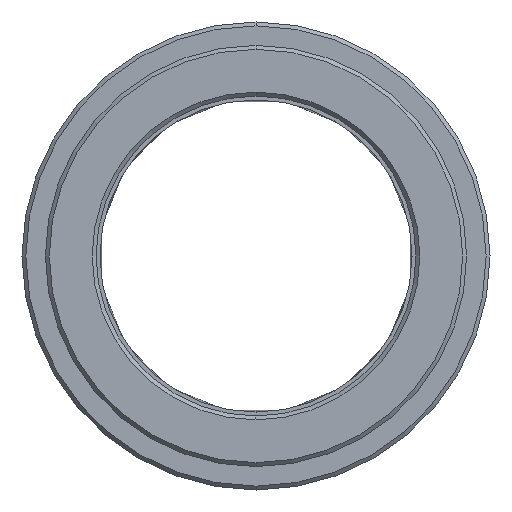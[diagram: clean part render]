
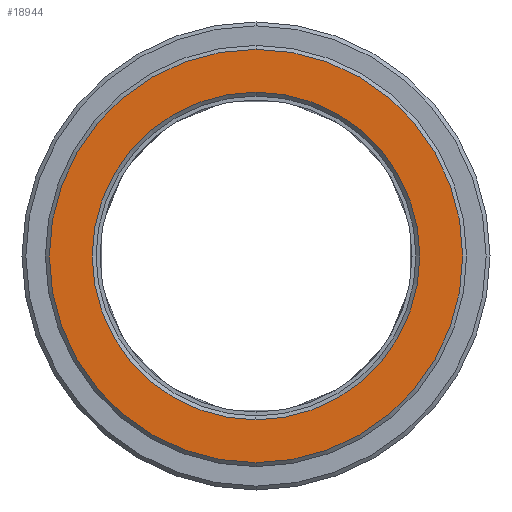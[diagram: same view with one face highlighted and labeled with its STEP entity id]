
A CAD part, left-side view. The second image highlights one B-rep face of the part: STEP entity #18944.
In plain terms, the highlighted planar face has unit normal (-1, 0, 0).
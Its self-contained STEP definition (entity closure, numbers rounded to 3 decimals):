
#7774=CARTESIAN_POINT('',(-10.,0.,
0.));
#7775=DIRECTION('',(1.,0.,0.));
#7776=DIRECTION('',(0.,0.,1.));
#7777=AXIS2_PLACEMENT_3D('',#7774,#7775,#7776);
#7779=CARTESIAN_POINT('',(-10.,0.,
0.));
#7780=DIRECTION('',(1.,0.,0.));
#7781=DIRECTION('',(0.,0.,-1.));
#7782=AXIS2_PLACEMENT_3D('',#7779,#7780,#7781);
#7784=CARTESIAN_POINT('',(-10.,0.,
0.));
#7785=DIRECTION('',(1.,0.,0.));
#7786=DIRECTION('',(0.,0.,1.));
#7787=AXIS2_PLACEMENT_3D('',#7784,#7785,#7786);
#7789=CARTESIAN_POINT('',(-10.,0.,
0.));
#7790=DIRECTION('',(1.,0.,0.));
#7791=DIRECTION('',(0.,0.,-1.));
#7792=AXIS2_PLACEMENT_3D('',#7789,#7790,#7791);
#16366=CARTESIAN_POINT('',(-10.,0.,21.));
#16367=CARTESIAN_POINT('',(-10.,0.,-21.));
#16368=VERTEX_POINT('',#16366);
#16369=VERTEX_POINT('',#16367);
#16374=CARTESIAN_POINT('',(-10.,0.,26.5));
#16375=CARTESIAN_POINT('',(-10.,0.,-26.5));
#16376=VERTEX_POINT('',#16374);
#16377=VERTEX_POINT('',#16375);
#18928=CARTESIAN_POINT('',(-10.,0.,0.));
#18929=DIRECTION('',(1.,0.,0.));
#18930=DIRECTION('',(0.,0.,1.));
#18931=AXIS2_PLACEMENT_3D('',#18928,#18929,#18930);
#18932=PLANE('',#18931);
#18934=ORIENTED_EDGE('',*,*,#18933,.T.);
#18936=ORIENTED_EDGE('',*,*,#18935,.T.);
#18937=EDGE_LOOP('',(#18934,#18936));
#18938=FACE_OUTER_BOUND('',#18937,.F.);
#18939=ORIENTED_EDGE('',*,*,#18918,.F.);
#18941=ORIENTED_EDGE('',*,*,#18940,.F.);
#18942=EDGE_LOOP('',(#18939,#18941));
#18943=FACE_BOUND('',#18942,.F.);
#18944=ADVANCED_FACE('',(#18938,#18943),#18932,.F.);
#7778=CIRCLE('',#7777,26.5);
#7783=CIRCLE('',#7782,26.5);
#7788=CIRCLE('',#7787,21.);
#7793=CIRCLE('',#7792,21.);
#18918=EDGE_CURVE('',#16368,#16369,#7788,.T.);
#18933=EDGE_CURVE('',#16376,#16377,#7778,.T.);
#18935=EDGE_CURVE('',#16377,#16376,#7783,.T.);
#18940=EDGE_CURVE('',#16369,#16368,#7793,.T.);
